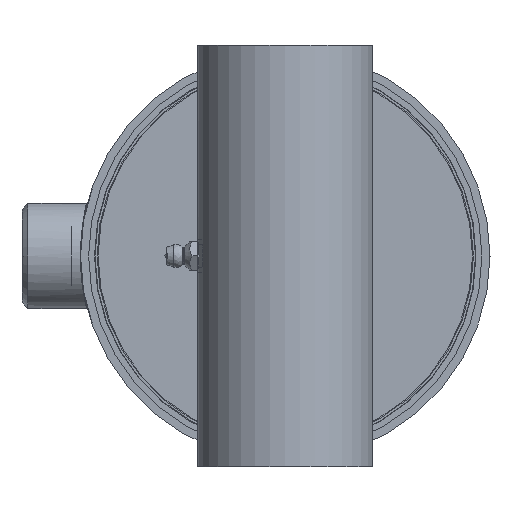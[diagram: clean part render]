
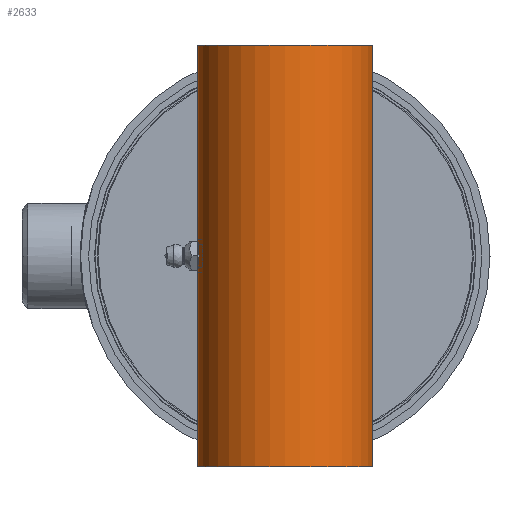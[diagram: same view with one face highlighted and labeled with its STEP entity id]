
A CAD part, left-side view. The second image highlights one B-rep face of the part: STEP entity #2633.
In plain terms, the highlighted cylindrical face has radius 23.812 mm (diameter 47.625 mm), a full revolution.
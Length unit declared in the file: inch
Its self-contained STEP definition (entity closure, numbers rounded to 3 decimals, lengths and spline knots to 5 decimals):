
#334=B_SPLINE_CURVE_WITH_KNOTS($,3,(#4867,#4868,#4869,#4870,#4871,#4872,
#4873,#4874,#4875,#4876,#4877,#4878,#4879,#4880,#4881,#4882,#4883,#4884),
 .UNSPECIFIED.,.F.,.F.,(4,2,2,2,2,2,2,2,4),(0.66759,0.83448,
1.00138,1.16828,1.33518,1.50208,1.66898,
1.83587,2.00277),.UNSPECIFIED.);
#335=B_SPLINE_CURVE_WITH_KNOTS($,3,(#4885,#4886,#4887,#4888,#4889,#4890,
#4891,#4892,#4893,#4894,#4895,#4896,#4897,#4898,#4899,#4900,#4901,#4902,
#4903),.UNSPECIFIED.,.F.,.F.,(4,2,2,2,3,2,2,2,4),(2.00277,2.16966,
2.33655,2.50345,2.67036,2.83726,3.00416,
3.17105,3.33794),.UNSPECIFIED.);
#365=CYLINDRICAL_SURFACE($,#2911,0.9375);
#537=FACE_BOUND($,#941,.T.);
#538=FACE_BOUND($,#942,.T.);
#539=FACE_BOUND($,#943,.T.);
#941=EDGE_LOOP($,(#2050,#2051));
#942=EDGE_LOOP($,(#2052));
#943=EDGE_LOOP($,(#2053));
#1261=CIRCLE($,#2910,0.9375);
#1262=CIRCLE($,#2912,0.9375);
#1444=VERTEX_POINT($,#4865);
#1445=VERTEX_POINT($,#4866);
#1449=VERTEX_POINT($,#4945);
#1450=VERTEX_POINT($,#4948);
#1693=EDGE_CURVE($,#1444,#1445,#334,.T.);
#1694=EDGE_CURVE($,#1445,#1444,#335,.T.);
#1698=EDGE_CURVE($,#1449,#1449,#1261,.T.);
#1699=EDGE_CURVE($,#1450,#1450,#1262,.T.);
#2050=ORIENTED_EDGE($,*,*,#1693,.T.);
#2051=ORIENTED_EDGE($,*,*,#1694,.T.);
#2052=ORIENTED_EDGE($,*,*,#1698,.T.);
#2053=ORIENTED_EDGE($,*,*,#1699,.T.);
#2633=ADVANCED_FACE($,(#537,#538,#539),#365,.T.);
#2910=AXIS2_PLACEMENT_3D($,#4946,#3407,#3408);
#2911=AXIS2_PLACEMENT_3D($,#4947,#3409,#3410);
#2912=AXIS2_PLACEMENT_3D($,#4949,#3411,#3412);
#3407=DIRECTION('center_axis',(0.,0.,1.));
#3408=DIRECTION('ref_axis',(-1.,0.,0.));
#3409=DIRECTION('center_axis',(0.,0.,1.));
#3410=DIRECTION('ref_axis',(-1.,0.,0.));
#3411=DIRECTION('center_axis',(0.,0.,-1.));
#3412=DIRECTION('ref_axis',(-1.,0.,0.));
#4865=CARTESIAN_POINT('',(0.,0.9375,-0.174));
#4866=CARTESIAN_POINT('',(0.,0.9375,0.174));
#4867=CARTESIAN_POINT('Ctrl Pts',(0.,0.9375,-0.174));
#4868=CARTESIAN_POINT('Ctrl Pts',(0.0219,0.9375,-0.174));
#4869=CARTESIAN_POINT('Ctrl Pts',(0.04523,0.93665,
-0.16961));
#4870=CARTESIAN_POINT('Ctrl Pts',(0.08808,0.9336,
-0.15184));
#4871=CARTESIAN_POINT('Ctrl Pts',(0.10762,0.93143,-0.13846));
#4872=CARTESIAN_POINT('Ctrl Pts',(0.13846,0.92735,-0.10762));
#4873=CARTESIAN_POINT('Ctrl Pts',(0.15184,0.92517,-0.08808));
#4874=CARTESIAN_POINT('Ctrl Pts',(0.16961,0.92207,-0.04523));
#4875=CARTESIAN_POINT('Ctrl Pts',(0.174,0.92121,-0.0219));
#4876=CARTESIAN_POINT('Ctrl Pts',(0.174,0.92121,0.0219));
#4877=CARTESIAN_POINT('Ctrl Pts',(0.16961,0.92207,0.04523));
#4878=CARTESIAN_POINT('Ctrl Pts',(0.15184,0.92517,0.08808));
#4879=CARTESIAN_POINT('Ctrl Pts',(0.13846,0.92735,0.10762));
#4880=CARTESIAN_POINT('Ctrl Pts',(0.10762,0.93143,0.13846));
#4881=CARTESIAN_POINT('Ctrl Pts',(0.08808,0.9336,
0.15184));
#4882=CARTESIAN_POINT('Ctrl Pts',(0.04523,0.93665,
0.16961));
#4883=CARTESIAN_POINT('Ctrl Pts',(0.0219,0.9375,0.174));
#4884=CARTESIAN_POINT('Ctrl Pts',(0.,0.9375,0.174));
#4885=CARTESIAN_POINT('Ctrl Pts',(0.,0.9375,0.174));
#4886=CARTESIAN_POINT('Ctrl Pts',(-0.0219,0.9375,0.174));
#4887=CARTESIAN_POINT('Ctrl Pts',(-0.04523,0.93665,
0.16961));
#4888=CARTESIAN_POINT('Ctrl Pts',(-0.08808,0.9336,
0.15184));
#4889=CARTESIAN_POINT('Ctrl Pts',(-0.10762,0.93143,
0.13846));
#4890=CARTESIAN_POINT('Ctrl Pts',(-0.13846,0.92735,0.10762));
#4891=CARTESIAN_POINT('Ctrl Pts',(-0.15184,0.92517,
0.08808));
#4892=CARTESIAN_POINT('Ctrl Pts',(-0.16961,0.92207,
0.04523));
#4893=CARTESIAN_POINT('Ctrl Pts',(-0.174,0.92121,0.0219));
#4894=CARTESIAN_POINT('Ctrl Pts',(-0.174,0.92121,0.));
#4895=CARTESIAN_POINT('Ctrl Pts',(-0.174,0.92121,-0.0219));
#4896=CARTESIAN_POINT('Ctrl Pts',(-0.16961,0.92207,
-0.04523));
#4897=CARTESIAN_POINT('Ctrl Pts',(-0.15184,0.92517,
-0.08808));
#4898=CARTESIAN_POINT('Ctrl Pts',(-0.13846,0.92735,-0.10762));
#4899=CARTESIAN_POINT('Ctrl Pts',(-0.10762,0.93143,
-0.13846));
#4900=CARTESIAN_POINT('Ctrl Pts',(-0.08808,0.9336,
-0.15184));
#4901=CARTESIAN_POINT('Ctrl Pts',(-0.04523,0.93665,
-0.16961));
#4902=CARTESIAN_POINT('Ctrl Pts',(-0.0219,0.9375,-0.174));
#4903=CARTESIAN_POINT('Ctrl Pts',(0.,0.9375,-0.174));
#4945=CARTESIAN_POINT('',(0.9375,0.,-2.25));
#4946=CARTESIAN_POINT('Origin',(0.,0.,-2.25));
#4947=CARTESIAN_POINT('Origin',(0.,0.,0.));
#4948=CARTESIAN_POINT('',(0.9375,0.,2.25));
#4949=CARTESIAN_POINT('Origin',(0.,0.,2.25));
